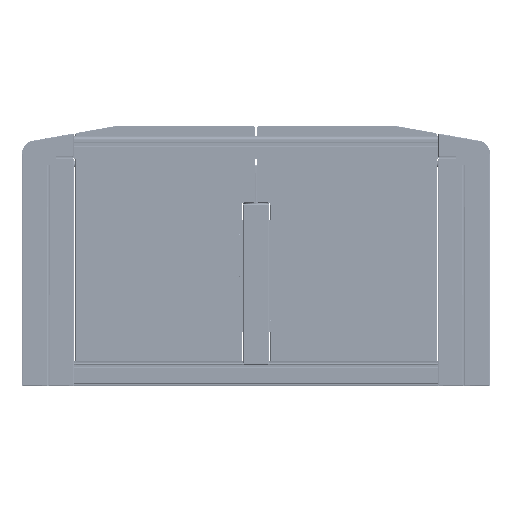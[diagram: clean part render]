
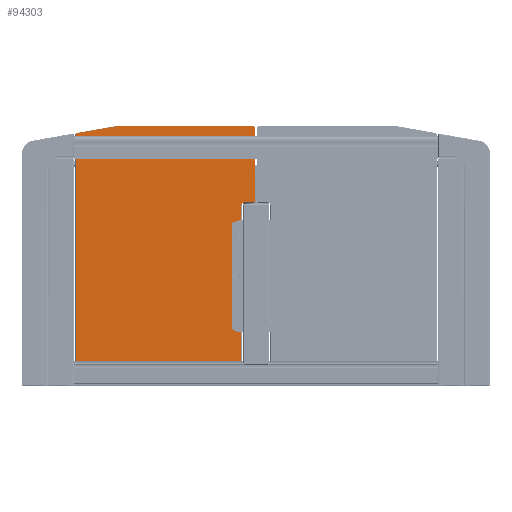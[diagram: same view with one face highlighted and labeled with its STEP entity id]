
A CAD part, left-side view. The second image highlights one B-rep face of the part: STEP entity #94303.
In plain terms, the highlighted planar face has unit normal (-1, 0, 0) as drawn and (0, -1, 0) by its records, which use the part's own axes.
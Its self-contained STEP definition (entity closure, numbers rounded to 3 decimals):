
#9609=LINE('',#166539,#18341);
#9610=LINE('',#166544,#18342);
#9611=LINE('',#166548,#18343);
#9612=LINE('',#166552,#18344);
#9613=LINE('',#166556,#18345);
#9614=LINE('',#166562,#18346);
#9615=LINE('',#166568,#18347);
#9616=LINE('',#166572,#18348);
#9617=LINE('',#166576,#18349);
#18341=VECTOR('',#131388,1000.);
#18342=VECTOR('',#131391,1000.);
#18343=VECTOR('',#131394,1000.);
#18344=VECTOR('',#131397,1000.);
#18345=VECTOR('',#131400,1000.);
#18346=VECTOR('',#131405,1000.);
#18347=VECTOR('',#131410,1000.);
#18348=VECTOR('',#131413,1000.);
#18349=VECTOR('',#131416,1000.);
#23493=PLANE('',#110410);
#41366=ORIENTED_EDGE('',*,*,#59269,.T.);
#41367=ORIENTED_EDGE('',*,*,#59270,.T.);
#41368=ORIENTED_EDGE('',*,*,#59271,.T.);
#41369=ORIENTED_EDGE('',*,*,#59272,.T.);
#41370=ORIENTED_EDGE('',*,*,#59273,.T.);
#41371=ORIENTED_EDGE('',*,*,#59274,.T.);
#41372=ORIENTED_EDGE('',*,*,#59275,.T.);
#41373=ORIENTED_EDGE('',*,*,#59276,.T.);
#41374=ORIENTED_EDGE('',*,*,#59277,.T.);
#41375=ORIENTED_EDGE('',*,*,#59278,.T.);
#41376=ORIENTED_EDGE('',*,*,#59279,.T.);
#41377=ORIENTED_EDGE('',*,*,#59280,.T.);
#41378=ORIENTED_EDGE('',*,*,#59281,.T.);
#41379=ORIENTED_EDGE('',*,*,#59282,.T.);
#41380=ORIENTED_EDGE('',*,*,#59283,.T.);
#41381=ORIENTED_EDGE('',*,*,#59284,.T.);
#41382=ORIENTED_EDGE('',*,*,#59285,.T.);
#41383=ORIENTED_EDGE('',*,*,#59286,.T.);
#41384=ORIENTED_EDGE('',*,*,#59287,.T.);
#41385=ORIENTED_EDGE('',*,*,#59288,.T.);
#41386=ORIENTED_EDGE('',*,*,#59289,.T.);
#41387=ORIENTED_EDGE('',*,*,#59290,.T.);
#41388=ORIENTED_EDGE('',*,*,#59291,.T.);
#41389=ORIENTED_EDGE('',*,*,#59292,.T.);
#59269=EDGE_CURVE('',#69660,#69661,#9609,.T.);
#59270=EDGE_CURVE('',#69661,#69662,#75078,.F.);
#59271=EDGE_CURVE('',#69662,#69663,#9610,.T.);
#59272=EDGE_CURVE('',#69663,#69664,#75079,.F.);
#59273=EDGE_CURVE('',#69664,#69665,#9611,.T.);
#59274=EDGE_CURVE('',#69665,#69666,#75080,.F.);
#59275=EDGE_CURVE('',#69666,#69667,#9612,.T.);
#59276=EDGE_CURVE('',#69667,#69668,#75081,.F.);
#59277=EDGE_CURVE('',#69668,#69669,#9613,.T.);
#59278=EDGE_CURVE('',#69669,#69670,#75082,.F.);
#59279=EDGE_CURVE('',#69670,#69671,#75083,.T.);
#59280=EDGE_CURVE('',#69671,#69672,#9614,.T.);
#59281=EDGE_CURVE('',#69672,#69673,#75084,.T.);
#59282=EDGE_CURVE('',#69673,#69674,#75085,.F.);
#59283=EDGE_CURVE('',#69674,#69675,#9615,.T.);
#59284=EDGE_CURVE('',#69675,#69676,#75086,.T.);
#59285=EDGE_CURVE('',#69676,#69677,#9616,.T.);
#59286=EDGE_CURVE('',#69677,#69678,#75087,.F.);
#59287=EDGE_CURVE('',#69678,#69679,#9617,.T.);
#59288=EDGE_CURVE('',#69679,#69660,#75088,.F.);
#59289=EDGE_CURVE('',#69680,#69680,#75089,.T.);
#59290=EDGE_CURVE('',#69681,#69681,#75090,.T.);
#59291=EDGE_CURVE('',#69682,#69682,#75091,.T.);
#59292=EDGE_CURVE('',#69683,#69683,#75092,.T.);
#69660=VERTEX_POINT('',#166540);
#69661=VERTEX_POINT('',#166541);
#69662=VERTEX_POINT('',#166543);
#69663=VERTEX_POINT('',#166545);
#69664=VERTEX_POINT('',#166547);
#69665=VERTEX_POINT('',#166549);
#69666=VERTEX_POINT('',#166551);
#69667=VERTEX_POINT('',#166553);
#69668=VERTEX_POINT('',#166555);
#69669=VERTEX_POINT('',#166557);
#69670=VERTEX_POINT('',#166559);
#69671=VERTEX_POINT('',#166561);
#69672=VERTEX_POINT('',#166563);
#69673=VERTEX_POINT('',#166565);
#69674=VERTEX_POINT('',#166567);
#69675=VERTEX_POINT('',#166569);
#69676=VERTEX_POINT('',#166571);
#69677=VERTEX_POINT('',#166573);
#69678=VERTEX_POINT('',#166575);
#69679=VERTEX_POINT('',#166577);
#69680=VERTEX_POINT('',#166580);
#69681=VERTEX_POINT('',#166582);
#69682=VERTEX_POINT('',#166584);
#69683=VERTEX_POINT('',#166586);
#75078=CIRCLE('',#110411,9.);
#75079=CIRCLE('',#110412,9.);
#75080=CIRCLE('',#110413,4.);
#75081=CIRCLE('',#110414,4.);
#75082=CIRCLE('',#110415,4.);
#75083=CIRCLE('',#110416,11.);
#75084=CIRCLE('',#110417,11.);
#75085=CIRCLE('',#110418,4.);
#75086=CIRCLE('',#110419,11.);
#75087=CIRCLE('',#110420,9.);
#75088=CIRCLE('',#110421,9.);
#75089=CIRCLE('',#110422,5.5);
#75090=CIRCLE('',#110423,5.5);
#75091=CIRCLE('',#110424,5.5);
#75092=CIRCLE('',#110425,5.5);
#80390=EDGE_LOOP('',(#41366,#41367,#41368,#41369,#41370,#41371,#41372,#41373,
#41374,#41375,#41376,#41377,#41378,#41379,#41380,#41381,#41382,#41383,#41384,
#41385));
#80391=EDGE_LOOP('',(#41386));
#80392=EDGE_LOOP('',(#41387));
#80393=EDGE_LOOP('',(#41388));
#80394=EDGE_LOOP('',(#41389));
#86727=FACE_BOUND('',#80390,.T.);
#86728=FACE_BOUND('',#80391,.T.);
#86729=FACE_BOUND('',#80392,.T.);
#86730=FACE_BOUND('',#80393,.T.);
#86731=FACE_BOUND('',#80394,.T.);
#94303=ADVANCED_FACE('',(#86727,#86728,#86729,#86730,#86731),#23493,.F.);
#110410=AXIS2_PLACEMENT_3D('',#166538,#131386,#131387);
#110411=AXIS2_PLACEMENT_3D('',#166542,#131389,#131390);
#110412=AXIS2_PLACEMENT_3D('',#166546,#131392,#131393);
#110413=AXIS2_PLACEMENT_3D('',#166550,#131395,#131396);
#110414=AXIS2_PLACEMENT_3D('',#166554,#131398,#131399);
#110415=AXIS2_PLACEMENT_3D('',#166558,#131401,#131402);
#110416=AXIS2_PLACEMENT_3D('',#166560,#131403,#131404);
#110417=AXIS2_PLACEMENT_3D('',#166564,#131406,#131407);
#110418=AXIS2_PLACEMENT_3D('',#166566,#131408,#131409);
#110419=AXIS2_PLACEMENT_3D('',#166570,#131411,#131412);
#110420=AXIS2_PLACEMENT_3D('',#166574,#131414,#131415);
#110421=AXIS2_PLACEMENT_3D('',#166578,#131417,#131418);
#110422=AXIS2_PLACEMENT_3D('',#166579,#131419,#131420);
#110423=AXIS2_PLACEMENT_3D('',#166581,#131421,#131422);
#110424=AXIS2_PLACEMENT_3D('',#166583,#131423,#131424);
#110425=AXIS2_PLACEMENT_3D('',#166585,#131425,#131426);
#131386=DIRECTION('',(0.,1.,0.));
#131387=DIRECTION('',(0.,0.,1.));
#131388=DIRECTION('',(-1.,0.,0.));
#131389=DIRECTION('',(0.,1.,0.));
#131390=DIRECTION('',(0.,0.,1.));
#131391=DIRECTION('',(-0.985,0.,-0.174));
#131392=DIRECTION('',(0.,1.,0.));
#131393=DIRECTION('',(0.,0.,1.));
#131394=DIRECTION('',(0.,0.,-1.));
#131395=DIRECTION('',(0.,1.,0.));
#131396=DIRECTION('',(0.,0.,1.));
#131397=DIRECTION('',(1.,0.,0.));
#131398=DIRECTION('',(0.,1.,0.));
#131399=DIRECTION('',(0.,0.,1.));
#131400=DIRECTION('',(0.,0.,1.));
#131401=DIRECTION('',(0.,1.,0.));
#131402=DIRECTION('',(0.,0.,1.));
#131403=DIRECTION('',(0.,1.,0.));
#131404=DIRECTION('',(0.,0.,1.));
#131405=DIRECTION('',(0.,0.,1.));
#131406=DIRECTION('',(0.,1.,0.));
#131407=DIRECTION('',(0.,0.,1.));
#131408=DIRECTION('',(0.,1.,0.));
#131409=DIRECTION('',(0.,0.,1.));
#131410=DIRECTION('',(0.,0.,1.));
#131411=DIRECTION('',(0.,1.,0.));
#131412=DIRECTION('',(0.,0.,1.));
#131413=DIRECTION('',(1.,0.,0.));
#131414=DIRECTION('',(0.,1.,0.));
#131415=DIRECTION('',(0.,0.,1.));
#131416=DIRECTION('',(0.,0.,1.));
#131417=DIRECTION('',(0.,1.,0.));
#131418=DIRECTION('',(0.,0.,1.));
#131419=DIRECTION('',(0.,1.,0.));
#131420=DIRECTION('',(0.,0.,-1.));
#131421=DIRECTION('',(0.,1.,0.));
#131422=DIRECTION('',(0.,0.,-1.));
#131423=DIRECTION('',(0.,1.,0.));
#131424=DIRECTION('',(0.,0.,-1.));
#131425=DIRECTION('',(0.,1.,0.));
#131426=DIRECTION('',(0.,0.,-1.));
#166538=CARTESIAN_POINT('',(0.,-10.,0.));
#166539=CARTESIAN_POINT('',(156.835,-10.,999.));
#166540=CARTESIAN_POINT('',(682.5,-10.,999.));
#166541=CARTESIAN_POINT('',(156.835,-10.,999.));
#166542=CARTESIAN_POINT('',(156.835,-10.,990.));
#166543=CARTESIAN_POINT('',(155.272,-10.,998.863));
#166544=CARTESIAN_POINT('',(8.437,-10.,972.972));
#166545=CARTESIAN_POINT('',(8.437,-10.,972.972));
#166546=CARTESIAN_POINT('',(10.,-10.,964.109));
#166547=CARTESIAN_POINT('',(1.,-10.,964.109));
#166548=CARTESIAN_POINT('',(1.,-10.,26.));
#166549=CARTESIAN_POINT('',(1.,-10.,26.));
#166550=CARTESIAN_POINT('',(5.,-10.,26.));
#166551=CARTESIAN_POINT('',(5.,-10.,22.));
#166552=CARTESIAN_POINT('',(635.,-10.,22.));
#166553=CARTESIAN_POINT('',(635.,-10.,22.));
#166554=CARTESIAN_POINT('',(635.,-10.,26.));
#166555=CARTESIAN_POINT('',(639.,-10.,26.));
#166556=CARTESIAN_POINT('',(639.,-10.,206.));
#166557=CARTESIAN_POINT('',(639.,-10.,206.));
#166558=CARTESIAN_POINT('',(635.,-10.,206.));
#166559=CARTESIAN_POINT('',(635.,-10.,210.));
#166560=CARTESIAN_POINT('',(635.,-10.,221.));
#166561=CARTESIAN_POINT('',(624.,-10.,221.));
#166562=CARTESIAN_POINT('',(624.,-10.,621.));
#166563=CARTESIAN_POINT('',(624.,-10.,621.));
#166564=CARTESIAN_POINT('',(635.,-10.,621.));
#166565=CARTESIAN_POINT('',(635.,-10.,632.));
#166566=CARTESIAN_POINT('',(635.,-10.,636.));
#166567=CARTESIAN_POINT('',(639.,-10.,636.));
#166568=CARTESIAN_POINT('',(639.,-10.,695.));
#166569=CARTESIAN_POINT('',(639.,-10.,695.));
#166570=CARTESIAN_POINT('',(650.,-10.,695.));
#166571=CARTESIAN_POINT('',(650.,-10.,706.));
#166572=CARTESIAN_POINT('',(682.5,-10.,706.));
#166573=CARTESIAN_POINT('',(682.5,-10.,706.));
#166574=CARTESIAN_POINT('',(682.5,-10.,715.));
#166575=CARTESIAN_POINT('',(691.5,-10.,715.));
#166576=CARTESIAN_POINT('',(691.5,-10.,990.));
#166577=CARTESIAN_POINT('',(691.5,-10.,990.));
#166578=CARTESIAN_POINT('',(682.5,-10.,990.));
#166579=CARTESIAN_POINT('',(667.5,-10.,921.));
#166580=CARTESIAN_POINT('',(667.5,-10.,915.5));
#166581=CARTESIAN_POINT('',(637.5,-10.,921.));
#166582=CARTESIAN_POINT('',(637.5,-10.,915.5));
#166583=CARTESIAN_POINT('',(55.,-10.,921.));
#166584=CARTESIAN_POINT('',(55.,-10.,915.5));
#166585=CARTESIAN_POINT('',(25.,-10.,921.));
#166586=CARTESIAN_POINT('',(25.,-10.,915.5));
